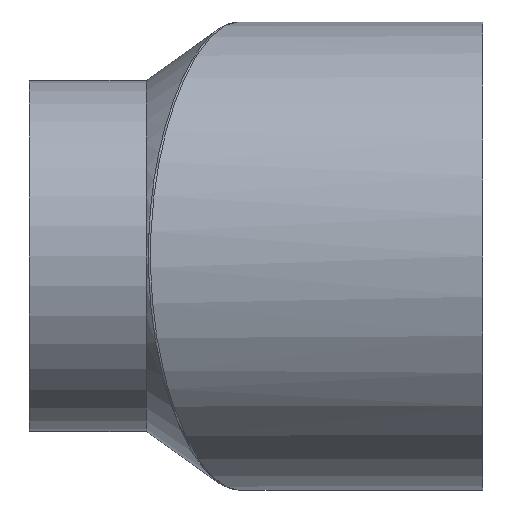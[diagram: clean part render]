
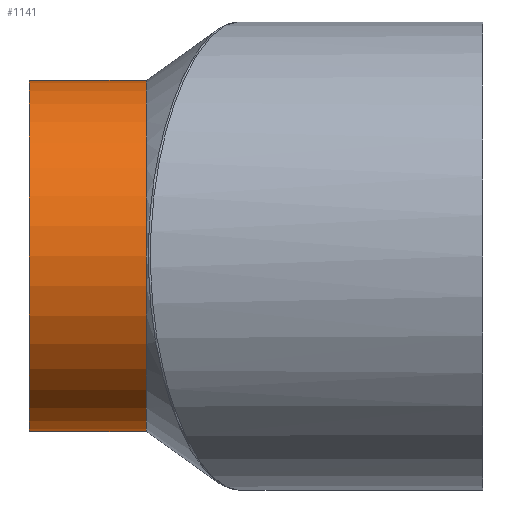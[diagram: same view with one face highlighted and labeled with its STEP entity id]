
A CAD part, front view. The second image highlights one B-rep face of the part: STEP entity #1141.
In plain terms, the highlighted cylindrical face has radius 38.1 mm (diameter 76.2 mm), a partial arc.
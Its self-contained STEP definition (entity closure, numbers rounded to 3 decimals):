
#13 = CARTESIAN_POINT ( 'NONE',  ( -98.425, -12.24, -38.1 ) ) ;
#45 = DIRECTION ( 'NONE',  ( 1., 0., 0. ) ) ;
#55 = CARTESIAN_POINT ( 'NONE',  ( -51.926, -12.24, 0. ) ) ;
#63 = DIRECTION ( 'NONE',  ( 0., 0., -1. ) ) ;
#108 = CARTESIAN_POINT ( 'NONE',  ( -73.025, -12.24, -38.1 ) ) ;
#214 = VERTEX_POINT ( 'NONE', #108 ) ;
#296 = VERTEX_POINT ( 'NONE', #386 ) ;
#354 = CARTESIAN_POINT ( 'NONE',  ( -73.025, -12.24, 0. ) ) ;
#386 = CARTESIAN_POINT ( 'NONE',  ( -98.425, -12.24, 38.1 ) ) ;
#513 = DIRECTION ( 'NONE',  ( 1., 0., 0. ) ) ;
#561 = ORIENTED_EDGE ( 'NONE', *, *, #1264, .F. ) ;
#568 = DIRECTION ( 'NONE',  ( 0., 0., -1. ) ) ;
#590 = LINE ( 'NONE', #1394, #624 ) ;
#624 = VECTOR ( 'NONE', #1448, 1000. ) ;
#694 = DIRECTION ( 'NONE',  ( 0., 0., -1. ) ) ;
#697 = DIRECTION ( 'NONE',  ( 1., 0., 0. ) ) ;
#700 = CARTESIAN_POINT ( 'NONE',  ( -98.425, -12.24, 0. ) ) ;
#720 = CARTESIAN_POINT ( 'NONE',  ( -73.025, -12.24, 38.1 ) ) ;
#771 = DIRECTION ( 'NONE',  ( 1., 0., 0. ) ) ;
#790 = CARTESIAN_POINT ( 'NONE',  ( -51.926, -12.24, 38.1 ) ) ;
#796 = VERTEX_POINT ( 'NONE', #13 ) ;
#800 = EDGE_LOOP ( 'NONE', ( #1202, #933, #1419, #561 ) ) ;
#861 = AXIS2_PLACEMENT_3D ( 'NONE', #55, #45, #63 ) ;
#863 = CYLINDRICAL_SURFACE ( 'NONE', #861, 38.1 ) ;
#893 = FACE_OUTER_BOUND ( 'NONE', #800, .T. ) ;
#933 = ORIENTED_EDGE ( 'NONE', *, *, #1031, .T. ) ;
#996 = CIRCLE ( 'NONE', #1420, 38.1 ) ;
#1001 = EDGE_CURVE ( 'NONE', #296, #1055, #1152, .T. ) ;
#1031 = EDGE_CURVE ( 'NONE', #296, #796, #1159, .T. ) ;
#1055 = VERTEX_POINT ( 'NONE', #720 ) ;
#1103 = VECTOR ( 'NONE', #771, 1000. ) ;
#1141 = ADVANCED_FACE ( 'NONE', ( #893 ), #863, .T. ) ;
#1152 = LINE ( 'NONE', #790, #1103 ) ;
#1159 = CIRCLE ( 'NONE', #1447, 38.1 ) ;
#1175 = EDGE_CURVE ( 'NONE', #796, #214, #590, .T. ) ;
#1202 = ORIENTED_EDGE ( 'NONE', *, *, #1001, .F. ) ;
#1264 = EDGE_CURVE ( 'NONE', #1055, #214, #996, .T. ) ;
#1394 = CARTESIAN_POINT ( 'NONE',  ( -51.926, -12.24, -38.1 ) ) ;
#1419 = ORIENTED_EDGE ( 'NONE', *, *, #1175, .T. ) ;
#1420 = AXIS2_PLACEMENT_3D ( 'NONE', #354, #513, #568 ) ;
#1447 = AXIS2_PLACEMENT_3D ( 'NONE', #700, #697, #694 ) ;
#1448 = DIRECTION ( 'NONE',  ( 1., 0., 0. ) ) ;
